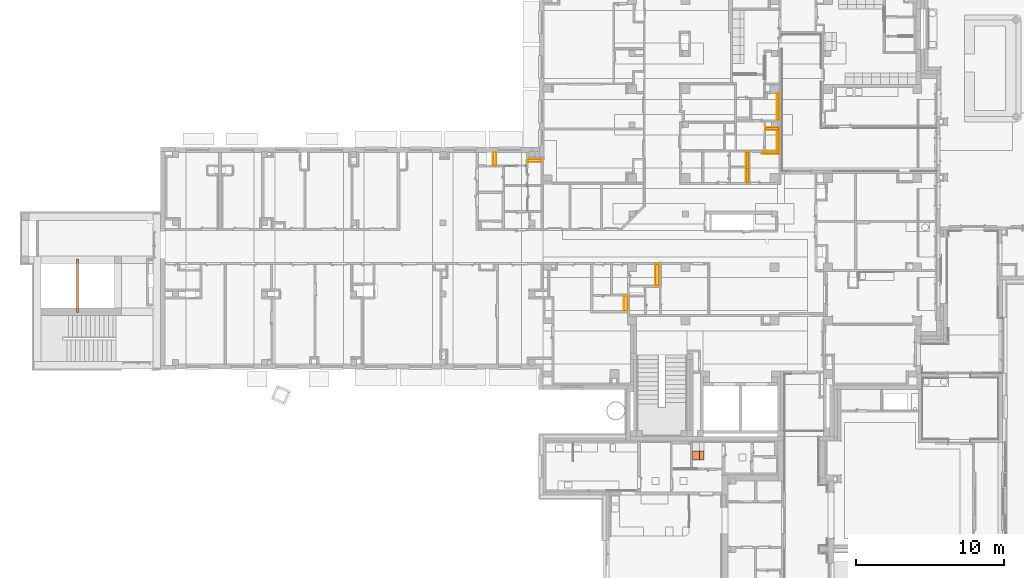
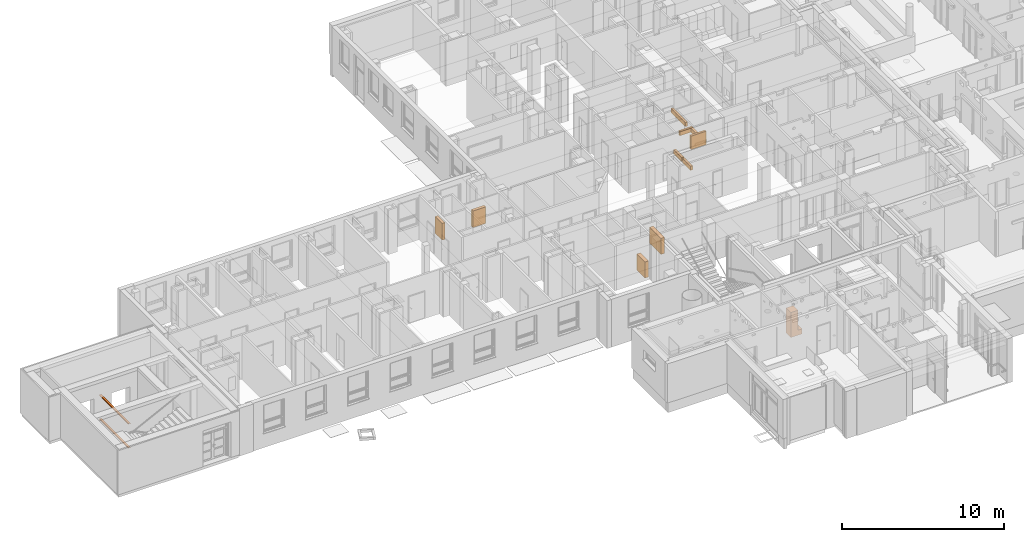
# One storey, part 137 of 140: 20 coverings, 13 proxies, 1 element without a shape of its own.
"""IFC4 building model written with IfcOpenShell, lengths in metres."""

from ifc_helpers import new_model, entity, si_unit, converted_unit, derived_unit, frame, frame_2d, origin, origin_with_axes, place, context, subcontext, project, spatial, rectangle, extrude, faceted_brep, source, transform, mapped, material, layer, layer_set, layer_usage, element, aggregate, save


model = new_model("IFC4")

# Units and contexts
model_context = context("Model", 3, precision=1e-05, world=origin())
body_context = subcontext(model_context, "Body", "Model", "MODEL_VIEW")
ifc_project = project(units=[si_unit("LENGTHUNIT", "METRE"), si_unit("AREAUNIT", "SQUARE_METRE"), si_unit("VOLUMEUNIT", "CUBIC_METRE"), si_unit("MASSUNIT", "GRAM", prefix="KILO"), converted_unit("PLANEANGLEUNIT", "DEGREE", entity("IfcPlaneAngleMeasure", 0.0174532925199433), si_unit("PLANEANGLEUNIT", "RADIAN"), dimensions=[0, 0, 0, 0, 0, 0, 0]), derived_unit("THERMALTRANSMITTANCEUNIT", [(si_unit("POWERUNIT", "WATT"), 1), (si_unit("THERMODYNAMICTEMPERATUREUNIT", "KELVIN"), -1), (si_unit("LENGTHUNIT", "METRE"), -2)]), derived_unit("VOLUMETRICFLOWRATEUNIT", [(si_unit("LENGTHUNIT", "METRE"), 3), (converted_unit("TIMEUNIT", "hour", entity("IfcTimeMeasure", 3600.0), si_unit("TIMEUNIT", "SECOND"), dimensions=[0, 0, 1, 0, 0, 0, 0]), -1), (si_unit("LENGTHUNIT", "METRE"), -1)])], contexts=[model_context])

# Site, building, storey
site_placement = place(None, origin())
site = spatial("IfcSite", under=ifc_project, at=site_placement, Name="3. ASŘ", CompositionType="ELEMENT")
building_placement = place(site_placement, origin())
building = spatial("IfcBuilding", under=site, at=building_placement, Name="Pavilon C", CompositionType="ELEMENT")
storey_placement = place(building_placement, origin())
storey = spatial("IfcBuildingStorey", under=building, at=storey_placement, Name="Půdorys 1.NP", CompositionType="ELEMENT", Elevation=0.0)

# Covering
ifc_material_1 = material(Name="KERAMICKÝ OBKLAD")
ifc_layer_1 = layer(ifc_material_1, 0.015)
ifc_layer_set_1 = layer_set([ifc_layer_1])
ifc_layer_usage_1 = layer_usage(ifc_layer_set_1, "AXIS3", "POSITIVE", 0.0)
proxy_3_placement = place(storey_placement, frame((21.4, 14.93, 0.0)))
covering_1_placement = place(proxy_3_placement, frame((0.0, -0.875000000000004, 0.0)))
covering_1 = element("IfcCovering", 1, at=covering_1_placement, inside=storey, material=ifc_layer_usage_1, PredefinedType="CLADDING", context=body_context, shape_type="SweptSolid", body=[
    extrude(rectangle(XDim=0.2, YDim=1.25, at=frame_2d((0.1, -0.625), x_axis=(1.0, 0.0))), frame((0.2, 0.0, 0.0), z_axis=(0.0, -1.0, 0.0), x_axis=(-1.0, 0.0, 0.0)), (0.0, 0.0, 1.0), 0.015),
    extrude(rectangle(XDim=0.875000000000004, YDim=1.25, at=frame_2d((0.437500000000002, -0.625), x_axis=(1.0, 0.0))), frame((0.2, 0.875000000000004, 0.0), z_axis=(1.0, 0.0, 0.0), x_axis=(0.0, -1.0, 0.0)), (0.0, 0.0, 1.0), 0.015),
    extrude(rectangle(XDim=0.2, YDim=1.25, at=frame_2d((0.1, -0.625), x_axis=(1.0, 0.0))), frame((0.0, 0.875000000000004, 0.0), z_axis=(0.0, 1.0, 0.0), x_axis=(1.0, 0.0, 0.0)), (0.0, 0.0, 1.0), 0.015),
    extrude(rectangle(XDim=0.875000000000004, YDim=1.25, at=frame_2d((0.437500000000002, -0.625), x_axis=(1.0, 0.0))), frame((0.0, 0.0, 0.0), z_axis=(-1.0, 0.0, 0.0), x_axis=(0.0, 1.0, 0.0)), (0.0, 0.0, 1.0), 0.015),
])

ifc_material_2 = material(Name="KERAMICKÝ OBKLAD")
ifc_layer_2 = layer(ifc_material_2, 0.015)
ifc_layer_set_2 = layer_set([ifc_layer_2])
ifc_layer_usage_2 = layer_usage(ifc_layer_set_2, "AXIS3", "POSITIVE", 0.0)
covering_2_placement = place(proxy_3_placement, frame((0.0, -0.875000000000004, 1.25)))
covering_2 = element("IfcCovering", 2, at=covering_2_placement, inside=storey, material=ifc_layer_usage_2, PredefinedType="FLOORING", context=body_context, shape_type="SweptSolid", body=[
    extrude(rectangle(XDim=0.2, YDim=0.875000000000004, at=frame_2d((0.1, 0.437500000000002), x_axis=(1.0, 0.0))), frame((0.0, 0.875000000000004, 0.0), z_axis=(0.0, 0.0, -1.0), x_axis=(1.0, 0.0, 0.0)), (0.0, 0.0, -1.0), 0.015),
])

ifc_material_3 = material(Name="KERAMICKÝ OBKLAD")
ifc_layer_3 = layer(ifc_material_3, 0.015)
ifc_layer_set_3 = layer_set([ifc_layer_3])
ifc_layer_usage_3 = layer_usage(ifc_layer_set_3, "AXIS3", "POSITIVE", 0.0)
proxy_4_placement = place(storey_placement, frame((24.625, 14.475, 0.0)))
covering_3_placement = place(proxy_4_placement, frame((-0.9, -0.2, 0.0)))
covering_3 = element("IfcCovering", 3, at=covering_3_placement, inside=storey, material=ifc_layer_usage_3, PredefinedType="CLADDING", context=body_context, shape_type="SweptSolid", body=[
    extrude(rectangle(XDim=0.2, YDim=1.25, at=frame_2d((0.1, -0.625), x_axis=(1.0, 0.0))), frame((0.0, 0.0, 0.0), z_axis=(-1.0, 0.0, 0.0), x_axis=(0.0, 1.0, 0.0)), (0.0, 0.0, 1.0), 0.015),
    extrude(rectangle(XDim=0.9, YDim=1.25, at=frame_2d((0.45, -0.625), x_axis=(1.0, 0.0))), frame((0.9, 0.0, 0.0), z_axis=(0.0, -1.0, 0.0), x_axis=(-1.0, 0.0, 0.0)), (0.0, 0.0, 1.0), 0.015),
    extrude(rectangle(XDim=0.2, YDim=1.25, at=frame_2d((0.1, -0.625), x_axis=(1.0, 0.0))), frame((0.9, 0.2, 0.0), z_axis=(1.0, 0.0, 0.0), x_axis=(0.0, -1.0, 0.0)), (0.0, 0.0, 1.0), 0.015),
    extrude(rectangle(XDim=0.9, YDim=1.25, at=frame_2d((0.45, -0.625), x_axis=(1.0, 0.0))), frame((0.0, 0.2, 0.0), z_axis=(0.0, 1.0, 0.0), x_axis=(1.0, 0.0, 0.0)), (0.0, 0.0, 1.0), 0.015),
])

ifc_material_4 = material(Name="KERAMICKÝ OBKLAD")
ifc_layer_4 = layer(ifc_material_4, 0.015)
ifc_layer_set_4 = layer_set([ifc_layer_4])
ifc_layer_usage_4 = layer_usage(ifc_layer_set_4, "AXIS3", "POSITIVE", 0.0)
covering_4_placement = place(proxy_4_placement, frame((-0.9, -0.2, 1.25)))
covering_4 = element("IfcCovering", 4, at=covering_4_placement, inside=storey, material=ifc_layer_usage_4, PredefinedType="FLOORING", context=body_context, shape_type="SweptSolid", body=[
    extrude(rectangle(XDim=0.2, YDim=0.9, at=frame_2d((-0.45, 0.1), x_axis=(0.0, 1.0))), frame((0.9, 0.2, 0.0), z_axis=(0.0, 0.0, -1.0), x_axis=(1.0, 0.0, 0.0)), (0.0, 0.0, -1.0), 0.015),
])

ifc_material_5 = material(Name="KERAMICKÝ OBKLAD")
ifc_layer_5 = layer(ifc_material_5, 0.015)
ifc_layer_set_5 = layer_set([ifc_layer_5])
ifc_layer_usage_5 = layer_usage(ifc_layer_set_5, "AXIS3", "POSITIVE", 0.0)
proxy_5_placement = place(storey_placement, frame((38.575, 12.9, 0.0)))
covering_5_placement = place(proxy_5_placement, frame((-0.15, 0.0, 0.0)))
covering_5 = element("IfcCovering", 5, at=covering_5_placement, inside=storey, material=ifc_layer_usage_5, PredefinedType="CLADDING", context=body_context, shape_type="SweptSolid", body=[
    extrude(rectangle(XDim=0.15, YDim=0.3, at=frame_2d((0.075, -0.15), x_axis=(1.0, 0.0))), frame((0.0, 0.9875, 0.0), z_axis=(0.0, 1.0, 0.0), x_axis=(1.0, 0.0, 0.0)), (0.0, 0.0, 1.0), 0.015),
    extrude(rectangle(XDim=0.9875, YDim=0.3, at=frame_2d((0.49375, -0.15), x_axis=(1.0, 0.0))), frame((0.0, 0.0, 0.0), z_axis=(-1.0, 0.0, 0.0), x_axis=(0.0, 1.0, 0.0)), (0.0, 0.0, 1.0), 0.015),
    extrude(rectangle(XDim=0.15, YDim=0.3, at=frame_2d((0.075, -0.15), x_axis=(1.0, 0.0))), frame((0.15, 0.0, 0.0), z_axis=(0.0, -1.0, 0.0), x_axis=(-1.0, 0.0, 0.0)), (0.0, 0.0, 1.0), 0.015),
    extrude(rectangle(XDim=0.9875, YDim=0.3, at=frame_2d((0.49375, -0.15), x_axis=(1.0, 0.0))), frame((0.15, 0.9875, 0.0), z_axis=(1.0, 0.0, 0.0), x_axis=(0.0, -1.0, 0.0)), (0.0, 0.0, 1.0), 0.015),
])

ifc_material_6 = material(Name="KERAMICKÝ OBKLAD")
ifc_layer_6 = layer(ifc_material_6, 0.015)
ifc_layer_set_6 = layer_set([ifc_layer_6])
ifc_layer_usage_6 = layer_usage(ifc_layer_set_6, "AXIS3", "POSITIVE", 0.0)
covering_6_placement = place(proxy_5_placement, frame((-0.15, 0.0, 0.3)))
covering_6 = element("IfcCovering", 6, at=covering_6_placement, inside=storey, material=ifc_layer_usage_6, PredefinedType="FLOORING", context=body_context, shape_type="SweptSolid", body=[
    extrude(rectangle(XDim=0.15, YDim=0.9875, at=frame_2d((-0.075, -0.49375), x_axis=(-1.0, 0.0))), frame((0.15, 0.0, 0.0), z_axis=(0.0, 0.0, -1.0), x_axis=(1.0, 0.0, 0.0)), (0.0, 0.0, -1.0), 0.015),
])

ifc_material_7 = material(Name="KERAMICKÝ OBKLAD")
ifc_layer_7 = layer(ifc_material_7, 0.015)
ifc_layer_set_7 = layer_set([ifc_layer_7])
ifc_layer_usage_7 = layer_usage(ifc_layer_set_7, "AXIS3", "POSITIVE", 0.0)
proxy_6_placement = place(storey_placement, frame((38.575, 13.9875, 0.0)))
covering_7_placement = place(proxy_6_placement, frame((-0.15, 0.0, 0.0)))
covering_7 = element("IfcCovering", 7, at=covering_7_placement, inside=storey, material=ifc_layer_usage_7, PredefinedType="CLADDING", context=body_context, shape_type="SweptSolid", body=[
    extrude(rectangle(XDim=0.15, YDim=0.3, at=frame_2d((0.075, -0.15), x_axis=(1.0, 0.0))), frame((0.0, 0.9875, 0.0), z_axis=(0.0, 1.0, 0.0), x_axis=(1.0, 0.0, 0.0)), (0.0, 0.0, 1.0), 0.015),
    extrude(rectangle(XDim=0.9875, YDim=0.3, at=frame_2d((0.49375, -0.15), x_axis=(1.0, 0.0))), frame((0.0, 0.0, 0.0), z_axis=(-1.0, 0.0, 0.0), x_axis=(0.0, 1.0, 0.0)), (0.0, 0.0, 1.0), 0.015),
    extrude(rectangle(XDim=0.15, YDim=0.3, at=frame_2d((0.075, -0.15), x_axis=(1.0, 0.0))), frame((0.15, 0.0, 0.0), z_axis=(0.0, -1.0, 0.0), x_axis=(-1.0, 0.0, 0.0)), (0.0, 0.0, 1.0), 0.015),
    extrude(rectangle(XDim=0.9875, YDim=0.3, at=frame_2d((0.49375, -0.15), x_axis=(1.0, 0.0))), frame((0.15, 0.9875, 0.0), z_axis=(1.0, 0.0, 0.0), x_axis=(0.0, -1.0, 0.0)), (0.0, 0.0, 1.0), 0.015),
])

ifc_material_8 = material(Name="KERAMICKÝ OBKLAD")
ifc_layer_8 = layer(ifc_material_8, 0.015)
ifc_layer_set_8 = layer_set([ifc_layer_8])
ifc_layer_usage_8 = layer_usage(ifc_layer_set_8, "AXIS3", "POSITIVE", 0.0)
covering_8_placement = place(proxy_6_placement, frame((-0.15, 0.0, 0.3)))
covering_8 = element("IfcCovering", 8, at=covering_8_placement, inside=storey, material=ifc_layer_usage_8, PredefinedType="FLOORING", context=body_context, shape_type="SweptSolid", body=[
    extrude(rectangle(XDim=0.15, YDim=0.9875, at=frame_2d((-0.075, -0.49375), x_axis=(-1.0, 0.0))), frame((0.15, 0.0, 0.0), z_axis=(0.0, 0.0, -1.0), x_axis=(1.0, 0.0, 0.0)), (0.0, 0.0, -1.0), 0.015),
])

ifc_material_9 = material(Name="KERAMICKÝ OBKLAD")
ifc_layer_9 = layer(ifc_material_9, 0.015)
ifc_layer_set_9 = layer_set([ifc_layer_9])
ifc_layer_usage_9 = layer_usage(ifc_layer_set_9, "AXIS3", "POSITIVE", 0.0)
proxy_7_placement = place(storey_placement, frame((32.575, 5.975, 0.0)))
covering_9_placement = place(proxy_7_placement, frame((-0.25, 0.0, 0.0)))
covering_9 = element("IfcCovering", 9, at=covering_9_placement, inside=storey, material=ifc_layer_usage_9, PredefinedType="CLADDING", context=body_context, shape_type="SweptSolid", body=[
    extrude(rectangle(XDim=0.25, YDim=1.2, at=frame_2d((0.125, -0.6), x_axis=(1.0, 0.0))), frame((0.0, 1.4, 0.0), z_axis=(0.0, 1.0, 0.0), x_axis=(1.0, 0.0, 0.0)), (0.0, 0.0, 1.0), 0.015),
    extrude(rectangle(XDim=1.4, YDim=1.2, at=frame_2d((0.7, -0.6), x_axis=(1.0, 0.0))), frame((0.0, 0.0, 0.0), z_axis=(-1.0, 0.0, 0.0), x_axis=(0.0, 1.0, 0.0)), (0.0, 0.0, 1.0), 0.015),
    extrude(rectangle(XDim=0.25, YDim=1.2, at=frame_2d((0.125, -0.6), x_axis=(1.0, 0.0))), frame((0.25, 0.0, 0.0), z_axis=(0.0, -1.0, 0.0), x_axis=(-1.0, 0.0, 0.0)), (0.0, 0.0, 1.0), 0.015),
    extrude(rectangle(XDim=1.4, YDim=1.2, at=frame_2d((0.7, -0.6), x_axis=(1.0, 0.0))), frame((0.25, 1.4, 0.0), z_axis=(1.0, 0.0, 0.0), x_axis=(0.0, -1.0, 0.0)), (0.0, 0.0, 1.0), 0.015),
])

ifc_material_10 = material(Name="KERAMICKÝ OBKLAD")
ifc_layer_10 = layer(ifc_material_10, 0.015)
ifc_layer_set_10 = layer_set([ifc_layer_10])
ifc_layer_usage_10 = layer_usage(ifc_layer_set_10, "AXIS3", "POSITIVE", 0.0)
covering_10_placement = place(proxy_7_placement, frame((-0.25, 0.0, 1.2)))
covering_10 = element("IfcCovering", 10, at=covering_10_placement, inside=storey, material=ifc_layer_usage_10, PredefinedType="FLOORING", context=body_context, shape_type="SweptSolid", body=[
    extrude(rectangle(XDim=0.25, YDim=1.4, at=frame_2d((-0.125, -0.7), x_axis=(-1.0, 0.0))), frame((0.25, 0.0, 0.0), z_axis=(0.0, 0.0, -1.0), x_axis=(1.0, 0.0, 0.0)), (0.0, 0.0, -1.0), 0.015),
])

ifc_material_11 = material(Name="KERAMICKÝ OBKLAD")
ifc_layer_11 = layer(ifc_material_11, 0.015)
ifc_layer_set_11 = layer_set([ifc_layer_11])
ifc_layer_usage_11 = layer_usage(ifc_layer_set_11, "AXIS3", "POSITIVE", 0.0)
proxy_8_placement = place(storey_placement, frame((30.45, 4.275, 0.0)))
covering_11_placement = place(proxy_8_placement, frame((-0.25, 0.0, 0.0)))
covering_11 = element("IfcCovering", 11, at=covering_11_placement, inside=storey, material=ifc_layer_usage_11, PredefinedType="CLADDING", context=body_context, shape_type="SweptSolid", body=[
    extrude(rectangle(XDim=0.25, YDim=1.2, at=frame_2d((0.125, -0.6), x_axis=(1.0, 0.0))), frame((0.0, 1.0, 0.0), z_axis=(0.0, 1.0, 0.0), x_axis=(1.0, 0.0, 0.0)), (0.0, 0.0, 1.0), 0.015),
    extrude(rectangle(XDim=1.0, YDim=1.2, at=frame_2d((0.5, -0.6), x_axis=(1.0, 0.0))), frame((0.0, 0.0, 0.0), z_axis=(-1.0, 0.0, 0.0), x_axis=(0.0, 1.0, 0.0)), (0.0, 0.0, 1.0), 0.015),
    extrude(rectangle(XDim=0.25, YDim=1.2, at=frame_2d((0.125, -0.6), x_axis=(1.0, 0.0))), frame((0.25, 0.0, 0.0), z_axis=(0.0, -1.0, 0.0), x_axis=(-1.0, 0.0, 0.0)), (0.0, 0.0, 1.0), 0.015),
    extrude(rectangle(XDim=1.0, YDim=1.2, at=frame_2d((0.5, -0.6), x_axis=(1.0, 0.0))), frame((0.25, 1.0, 0.0), z_axis=(1.0, 0.0, 0.0), x_axis=(0.0, -1.0, 0.0)), (0.0, 0.0, 1.0), 0.015),
])

ifc_material_12 = material(Name="KERAMICKÝ OBKLAD")
ifc_layer_12 = layer(ifc_material_12, 0.015)
ifc_layer_set_12 = layer_set([ifc_layer_12])
ifc_layer_usage_12 = layer_usage(ifc_layer_set_12, "AXIS3", "POSITIVE", 0.0)
covering_12_placement = place(proxy_8_placement, frame((-0.25, 0.0, 1.2)))
covering_12 = element("IfcCovering", 12, at=covering_12_placement, inside=storey, material=ifc_layer_usage_12, PredefinedType="FLOORING", context=body_context, shape_type="SweptSolid", body=[
    extrude(rectangle(XDim=0.25, YDim=1.0, at=frame_2d((-0.125, -0.5), x_axis=(-1.0, 0.0))), frame((0.25, 0.0, 0.0), z_axis=(0.0, 0.0, -1.0), x_axis=(1.0, 0.0, 0.0)), (0.0, 0.0, -1.0), 0.015),
])

ifc_material_13 = material(Name="KERAMICKÝ OBKLAD")
ifc_layer_13 = layer(ifc_material_13, 0.015)
ifc_layer_set_13 = layer_set([ifc_layer_13])
ifc_layer_usage_13 = layer_usage(ifc_layer_set_13, "AXIS3", "POSITIVE", 0.0)
proxy_9_placement = place(storey_placement, frame((40.65, 14.975, 5.6843418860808e-17)))
covering_13_placement = place(proxy_9_placement, frame((-1.075, -0.15, -5.6843418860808e-17)))
covering_13 = element("IfcCovering", 13, at=covering_13_placement, inside=storey, material=ifc_layer_usage_13, PredefinedType="CLADDING", context=body_context, shape_type="SweptSolid", body=[
    extrude(rectangle(XDim=0.15, YDim=1.0, at=frame_2d((0.075, -0.5), x_axis=(1.0, 0.0))), frame((0.0, 0.0, 0.0), z_axis=(-1.0, 0.0, 0.0), x_axis=(0.0, 1.0, 0.0)), (0.0, 0.0, 1.0), 0.015),
    extrude(rectangle(XDim=1.075, YDim=1.0, at=frame_2d((0.5375, -0.5), x_axis=(1.0, 0.0))), frame((1.075, 0.0, 0.0), z_axis=(0.0, -1.0, 0.0), x_axis=(-1.0, 0.0, 0.0)), (0.0, 0.0, 1.0), 0.015),
    extrude(rectangle(XDim=0.15, YDim=1.0, at=frame_2d((0.075, -0.5), x_axis=(1.0, 0.0))), frame((1.075, 0.15, 0.0), z_axis=(1.0, 0.0, 0.0), x_axis=(0.0, -1.0, 0.0)), (0.0, 0.0, 1.0), 0.015),
    extrude(rectangle(XDim=1.075, YDim=1.0, at=frame_2d((0.5375, -0.5), x_axis=(1.0, 0.0))), frame((0.0, 0.15, 0.0), z_axis=(0.0, 1.0, 0.0), x_axis=(1.0, 0.0, 0.0)), (0.0, 0.0, 1.0), 0.015),
])

ifc_material_14 = material(Name="KERAMICKÝ OBKLAD")
ifc_layer_14 = layer(ifc_material_14, 0.015)
ifc_layer_set_14 = layer_set([ifc_layer_14])
ifc_layer_usage_14 = layer_usage(ifc_layer_set_14, "AXIS3", "POSITIVE", 0.0)
covering_14_placement = place(proxy_9_placement, frame((-1.075, -0.15, 1.0)))
covering_14 = element("IfcCovering", 14, at=covering_14_placement, inside=storey, material=ifc_layer_usage_14, PredefinedType="FLOORING", context=body_context, shape_type="SweptSolid", body=[
    extrude(rectangle(XDim=0.15, YDim=1.075, at=frame_2d((-0.5375, 0.075), x_axis=(0.0, 1.0))), frame((1.075, 0.15, 0.0), z_axis=(0.0, 0.0, -1.0), x_axis=(1.0, 0.0, 0.0)), (0.0, 0.0, -1.0), 0.015),
])

ifc_material_15 = material(Name="KERAMICKÝ OBKLAD")
ifc_layer_15 = layer(ifc_material_15, 0.015)
ifc_layer_set_15 = layer_set([ifc_layer_15])
ifc_layer_usage_15 = layer_usage(ifc_layer_set_15, "AXIS3", "POSITIVE", 0.0)
proxy_10_placement = place(storey_placement, frame((40.65, 17.125, 0.0)))
covering_15_placement = place(proxy_10_placement, frame((-0.15, 0.0, 0.0)))
covering_15 = element("IfcCovering", 15, at=covering_15_placement, inside=storey, material=ifc_layer_usage_15, PredefinedType="CLADDING", context=body_context, shape_type="SweptSolid", body=[
    extrude(rectangle(XDim=0.15, YDim=0.3, at=frame_2d((0.075, -0.15), x_axis=(1.0, 0.0))), frame((0.0, 1.775, 0.0), z_axis=(0.0, 1.0, 0.0), x_axis=(1.0, 0.0, 0.0)), (0.0, 0.0, 1.0), 0.015),
    extrude(rectangle(XDim=1.775, YDim=0.3, at=frame_2d((0.8875, -0.15), x_axis=(1.0, 0.0))), frame((0.0, 0.0, 0.0), z_axis=(-1.0, 0.0, 0.0), x_axis=(0.0, 1.0, 0.0)), (0.0, 0.0, 1.0), 0.015),
    extrude(rectangle(XDim=0.15, YDim=0.3, at=frame_2d((0.075, -0.15), x_axis=(1.0, 0.0))), frame((0.15, 0.0, 0.0), z_axis=(0.0, -1.0, 0.0), x_axis=(-1.0, 0.0, 0.0)), (0.0, 0.0, 1.0), 0.015),
    extrude(rectangle(XDim=1.775, YDim=0.3, at=frame_2d((0.8875, -0.15), x_axis=(1.0, 0.0))), frame((0.15, 1.775, 0.0), z_axis=(1.0, 0.0, 0.0), x_axis=(0.0, -1.0, 0.0)), (0.0, 0.0, 1.0), 0.015),
])

ifc_material_16 = material(Name="KERAMICKÝ OBKLAD")
ifc_layer_16 = layer(ifc_material_16, 0.015)
ifc_layer_set_16 = layer_set([ifc_layer_16])
ifc_layer_usage_16 = layer_usage(ifc_layer_set_16, "AXIS3", "POSITIVE", 0.0)
covering_16_placement = place(proxy_10_placement, frame((-0.15, 0.0, 0.3)))
covering_16 = element("IfcCovering", 16, at=covering_16_placement, inside=storey, material=ifc_layer_usage_16, PredefinedType="FLOORING", context=body_context, shape_type="SweptSolid", body=[
    extrude(rectangle(XDim=0.15, YDim=1.775, at=frame_2d((-0.075, -0.8875), x_axis=(-1.0, 0.0))), frame((0.15, 0.0, 0.0), z_axis=(0.0, 0.0, -1.0), x_axis=(1.0, 0.0, 0.0)), (0.0, 0.0, -1.0), 0.015),
])

ifc_material_17 = material(Name="KERAMICKÝ OBKLAD")
ifc_layer_17 = layer(ifc_material_17, 0.015)
ifc_layer_set_17 = layer_set([ifc_layer_17])
ifc_layer_usage_17 = layer_usage(ifc_layer_set_17, "AXIS3", "POSITIVE", 0.0)
proxy_11_placement = place(storey_placement, frame((40.65, 15.075, 0.0)))
covering_17_placement = place(proxy_11_placement, frame((-0.15, 0.0, 0.0)))
covering_17 = element("IfcCovering", 17, at=covering_17_placement, inside=storey, material=ifc_layer_usage_17, PredefinedType="CLADDING", context=body_context, shape_type="SweptSolid", body=[
    extrude(rectangle(XDim=1.375, YDim=0.3, at=frame_2d((0.6875, -0.15), x_axis=(1.0, 0.0))), frame((0.0, 0.0, 0.0), z_axis=(-1.0, 0.0, 0.0), x_axis=(0.0, 1.0, 0.0)), (0.0, 0.0, 1.0), 0.015),
    extrude(rectangle(XDim=0.15, YDim=0.3, at=frame_2d((0.075, -0.15), x_axis=(1.0, 0.0))), frame((0.15, 0.0, 0.0), z_axis=(0.0, -1.0, 0.0), x_axis=(-1.0, 0.0, 0.0)), (0.0, 0.0, 1.0), 0.015),
    extrude(rectangle(XDim=1.375, YDim=0.3, at=frame_2d((0.6875, -0.15), x_axis=(1.0, 0.0))), frame((0.15, 1.375, 0.0), z_axis=(1.0, 0.0, 0.0), x_axis=(0.0, -1.0, 0.0)), (0.0, 0.0, 1.0), 0.015),
])

ifc_material_18 = material(Name="KERAMICKÝ OBKLAD")
ifc_layer_18 = layer(ifc_material_18, 0.015)
ifc_layer_set_18 = layer_set([ifc_layer_18])
ifc_layer_usage_18 = layer_usage(ifc_layer_set_18, "AXIS3", "POSITIVE", 0.0)
covering_18_placement = place(proxy_11_placement, frame((-0.15, 0.0, 0.3)))
covering_18 = element("IfcCovering", 18, at=covering_18_placement, inside=storey, material=ifc_layer_usage_18, PredefinedType="FLOORING", context=body_context, shape_type="SweptSolid", body=[
    extrude(rectangle(XDim=0.15, YDim=1.375, at=frame_2d((-0.075, -0.6875), x_axis=(-1.0, 0.0))), frame((0.15, 0.0, 0.0), z_axis=(0.0, 0.0, -1.0), x_axis=(1.0, 0.0, 0.0)), (0.0, 0.0, -1.0), 0.015),
])

ifc_material_19 = material(Name="KERAMICKÝ OBKLAD")
ifc_layer_19 = layer(ifc_material_19, 0.015)
ifc_layer_set_19 = layer_set([ifc_layer_19])
ifc_layer_usage_19 = layer_usage(ifc_layer_set_19, "AXIS3", "POSITIVE", 0.0)
proxy_12_placement = place(storey_placement, frame((40.65, 16.6, 0.0)))
covering_19_placement = place(proxy_12_placement, frame((-0.925, -0.15, 0.0)))
covering_19 = element("IfcCovering", 19, at=covering_19_placement, inside=storey, material=ifc_layer_usage_19, PredefinedType="CLADDING", context=body_context, shape_type="SweptSolid", body=[
    extrude(rectangle(XDim=0.15, YDim=0.3, at=frame_2d((0.075, -0.15), x_axis=(1.0, 0.0))), frame((0.0, 0.0, 0.0), z_axis=(-1.0, 0.0, 0.0), x_axis=(0.0, 1.0, 0.0)), (0.0, 0.0, 1.0), 0.015),
    extrude(rectangle(XDim=0.775, YDim=0.3, at=frame_2d((0.3875, -0.15), x_axis=(1.0, 0.0))), frame((0.775, 0.0, 0.0), z_axis=(0.0, -1.0, 0.0), x_axis=(-1.0, 0.0, 0.0)), (0.0, 0.0, 1.0), 0.015),
    extrude(rectangle(XDim=0.15, YDim=0.3, at=frame_2d((0.075, -0.15), x_axis=(1.0, 0.0))), frame((0.925, 0.15, 0.0), z_axis=(1.0, 0.0, 0.0), x_axis=(0.0, -1.0, 0.0)), (0.0, 0.0, 1.0), 0.015),
    extrude(rectangle(XDim=0.925, YDim=0.3, at=frame_2d((0.4625, -0.15), x_axis=(1.0, 0.0))), frame((0.0, 0.15, 0.0), z_axis=(0.0, 1.0, 0.0), x_axis=(1.0, 0.0, 0.0)), (0.0, 0.0, 1.0), 0.015),
])

ifc_material_20 = material(Name="KERAMICKÝ OBKLAD")
ifc_layer_20 = layer(ifc_material_20, 0.015)
ifc_layer_set_20 = layer_set([ifc_layer_20])
ifc_layer_usage_20 = layer_usage(ifc_layer_set_20, "AXIS3", "POSITIVE", 0.0)
covering_20_placement = place(proxy_12_placement, frame((-0.925, -0.15, 0.3)))
covering_20 = element("IfcCovering", 20, at=covering_20_placement, inside=storey, material=ifc_layer_usage_20, PredefinedType="FLOORING", context=body_context, shape_type="SweptSolid", body=[
    extrude(rectangle(XDim=0.15, YDim=0.925, at=frame_2d((-0.4625, 0.075), x_axis=(0.0, 1.0))), frame((0.925, 0.15, 0.0), z_axis=(0.0, 0.0, -1.0), x_axis=(1.0, 0.0, 0.0)), (0.0, 0.0, -1.0), 0.015),
])

# Proxies
ifc_material_21 = material(Name="U 140")
shared_shape = source(origin_with_axes(), body_context, "Body", "Brep", [
    faceted_brep([(7.105427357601e-18, 0.0, 0.0), (0.06, 0.0, 0.0), (0.06, 0.14, 0.0), (7.105427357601e-18, 0.14, 0.0), (0.0, 0.137015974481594, 0.0), (0.000220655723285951, 0.135547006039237, 0.0), (0.000863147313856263, 0.134207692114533, 0.0), (0.00187076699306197, 0.133116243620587, 0.0), (0.00315457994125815, 0.132368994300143, 0.0), (0.00460127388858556, 0.132031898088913, 0.0), (0.0437974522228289, 0.128896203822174, 0.0), (0.0466908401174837, 0.128222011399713, 0.0), (0.0492584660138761, 0.126727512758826, 0.0), (0.0512737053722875, 0.124544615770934, 0.0), (0.0525586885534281, 0.121865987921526, 0.0), (0.053, 0.118928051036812, 0.0), (0.053, 0.0210719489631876, 0.0), (0.0525586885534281, 0.0181340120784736, 0.0), (0.0512737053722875, 0.0154553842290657, 0.0), (0.0492584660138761, 0.0132724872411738, 0.0), (0.0466908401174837, 0.0117779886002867, 0.0), (0.0437974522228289, 0.0111037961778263, 0.0), (0.00460127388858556, 0.00796810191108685, 0.0), (0.00315457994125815, 0.00763100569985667, 0.0), (0.00187076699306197, 0.00688375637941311, 0.0), (0.000863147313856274, 0.00579230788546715, 0.0), (0.000220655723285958, 0.00445299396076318, 0.0), (7.105427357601e-18, 0.00298402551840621, 0.0), (0.06, 0.0, 3.6), (7.105427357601e-18, 0.0, 3.6), (7.105427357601e-18, 0.00298402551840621, 3.6), (0.000220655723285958, 0.00445299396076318, 3.6), (0.000863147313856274, 0.00579230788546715, 3.6), (0.00187076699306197, 0.00688375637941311, 3.6), (0.00315457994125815, 0.00763100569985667, 3.6), (0.00460127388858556, 0.00796810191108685, 3.6), (0.0437974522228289, 0.0111037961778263, 3.6), (0.0466908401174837, 0.0117779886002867, 3.6), (0.0492584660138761, 0.0132724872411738, 3.6), (0.0512737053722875, 0.0154553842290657, 3.6), (0.0525586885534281, 0.0181340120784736, 3.6), (0.053, 0.0210719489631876, 3.6), (0.053, 0.118928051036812, 3.6), (0.0525586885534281, 0.121865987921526, 3.6), (0.0512737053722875, 0.124544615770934, 3.6), (0.0492584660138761, 0.126727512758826, 3.6), (0.0466908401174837, 0.128222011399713, 3.6), (0.0437974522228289, 0.128896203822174, 3.6), (0.00460127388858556, 0.132031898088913, 3.6), (0.00315457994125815, 0.132368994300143, 3.6), (0.00187076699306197, 0.133116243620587, 3.6), (0.000863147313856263, 0.134207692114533, 3.6), (0.000220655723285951, 0.135547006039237, 3.6), (0.0, 0.137015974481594, 3.6), (7.105427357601e-18, 0.14, 3.6), (0.06, 0.14, 3.6)], [[[0, 1, 2, 3, 4, 5, 6, 7, 8, 9, 10, 11, 12, 13, 14, 15, 16, 17, 18, 19, 20, 21, 22, 23, 24, 25, 26, 27]], [[28, 29, 30, 31, 32, 33, 34, 35, 36, 37, 38, 39, 40, 41, 42, 43, 44, 45, 46, 47, 48, 49, 50, 51, 52, 53, 54, 55]], [[1, 0, 29, 28]], [[2, 1, 28, 55]], [[3, 2, 55, 54]], [[4, 3, 54, 53]], [[5, 4, 53, 52]], [[6, 5, 52, 51]], [[7, 6, 51, 50]], [[8, 7, 50, 49]], [[9, 8, 49, 48]], [[10, 9, 48, 47]], [[11, 10, 47, 46]], [[12, 11, 46, 45]], [[13, 12, 45, 44]], [[14, 13, 44, 43]], [[15, 14, 43, 42]], [[16, 15, 42, 41]], [[17, 16, 41, 40]], [[18, 17, 40, 39]], [[19, 18, 39, 38]], [[20, 19, 38, 37]], [[21, 20, 37, 36]], [[22, 21, 36, 35]], [[23, 22, 35, 34]], [[24, 23, 34, 33]], [[25, 24, 33, 32]], [[26, 25, 32, 31]], [[27, 26, 31, 30]], [[0, 27, 30, 29]]], orient=[[False], [False], [False], [False], [False], [False], [False], [False], [False], [False], [False], [False], [False], [False], [False], [False], [False], [False], [False], [False], [False], [False], [False], [False], [False], [False], [False], [False], [False], [False]]),
])
proxy_1_placement = place(storey_placement, frame((-6.52999999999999, 7.75, 0.14), z_axis=(-1.22464679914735e-16, -1.0, -2.44929359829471e-16), x_axis=(-5.34329236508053e-33, -2.44929359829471e-16, 1.0)))
element("IfcBuildingElementProxy", 21, at=proxy_1_placement, inside=storey, material=ifc_material_21, Name="Ocelový profil", context=body_context, shape_type="MappedRepresentation", body=[
    mapped(shared_shape, transform((0.0, 0.0, 0.0), x_axis=(1.0, 0.0, 0.0), y_axis=(0.0, 1.0, 0.0), z_axis=(0.0, 0.0, 1.0), scale=1.0)),
])
ifc_material_22 = material(Name="U 140")
proxy_2_placement = place(storey_placement, frame((-6.52999999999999, 7.75, 1.94), z_axis=(-1.22464679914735e-16, -1.0, -2.44929359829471e-16), x_axis=(-5.34329236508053e-33, -2.44929359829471e-16, 1.0)))
element("IfcBuildingElementProxy", 22, at=proxy_2_placement, inside=storey, material=ifc_material_22, Name="Ocelový profil", context=body_context, shape_type="MappedRepresentation", body=[
    mapped(shared_shape, transform((0.0, 0.0, 0.0), x_axis=(1.0, 0.0, 0.0), y_axis=(0.0, 1.0, 0.0), z_axis=(0.0, 0.0, 1.0), scale=1.0)),
])

# Proxy
ifc_material_23 = material(Name="YTONG INSTALAČNÍ PŘEDSTĚNA")
proxy_3 = element("IfcBuildingElementProxy", 23, at=proxy_3_placement, inside=storey, material=ifc_material_23, Name="YTONG INSTALAČNÍ PŘEDSTĚNA", context=body_context, shape_type="SweptSolid", body=[
    extrude(rectangle(XDim=0.875000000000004, YDim=0.2, at=frame_2d((0.1, -0.437500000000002), x_axis=(0.0, -1.0))), origin_with_axes(), (0.0, 0.0, 1.0), 1.25),
])

aggregate(proxy_3, [covering_1, covering_2])

ifc_material_24 = material(Name="YTONG INSTALAČNÍ PŘEDSTĚNA")
proxy_4 = element("IfcBuildingElementProxy", 24, at=proxy_4_placement, inside=storey, material=ifc_material_24, Name="YTONG INSTALAČNÍ PŘEDSTĚNA", context=body_context, shape_type="SweptSolid", body=[
    extrude(rectangle(XDim=0.9, YDim=0.2, at=frame_2d((-0.45, -0.1), x_axis=(-1.0, 0.0))), origin_with_axes(), (0.0, 0.0, 1.0), 1.25),
])

aggregate(proxy_4, [covering_3, covering_4])

ifc_material_25 = material(Name="YTONG INSTALAČNÍ PŘEDSTĚNA")
proxy_5 = element("IfcBuildingElementProxy", 25, at=proxy_5_placement, inside=storey, material=ifc_material_25, Name="YTONG INSTALAČNÍ PŘEDSTĚNA", context=body_context, shape_type="SweptSolid", body=[
    extrude(rectangle(XDim=0.9875, YDim=0.15, at=frame_2d((-0.075, 0.49375), x_axis=(0.0, 1.0))), origin_with_axes(), (0.0, 0.0, 1.0), 0.3),
])

aggregate(proxy_5, [covering_5, covering_6])

ifc_material_26 = material(Name="YTONG INSTALAČNÍ PŘEDSTĚNA")
proxy_6 = element("IfcBuildingElementProxy", 26, at=proxy_6_placement, inside=storey, material=ifc_material_26, Name="YTONG INSTALAČNÍ PŘEDSTĚNA", context=body_context, shape_type="SweptSolid", body=[
    extrude(rectangle(XDim=0.9875, YDim=0.15, at=frame_2d((-0.075, 0.49375), x_axis=(0.0, 1.0))), origin_with_axes(), (0.0, 0.0, 1.0), 0.3),
])

aggregate(proxy_6, [covering_7, covering_8])

ifc_material_27 = material(Name="YTONG INSTALAČNÍ PŘEDSTĚNA")
proxy_7 = element("IfcBuildingElementProxy", 27, at=proxy_7_placement, inside=storey, material=ifc_material_27, Name="YTONG INSTALAČNÍ PŘEDSTĚNA", context=body_context, shape_type="SweptSolid", body=[
    extrude(rectangle(XDim=1.4, YDim=0.25, at=frame_2d((-0.125, 0.7), x_axis=(0.0, 1.0))), origin_with_axes(), (0.0, 0.0, 1.0), 1.2),
])

aggregate(proxy_7, [covering_9, covering_10])

ifc_material_28 = material(Name="YTONG INSTALAČNÍ PŘEDSTĚNA")
proxy_8 = element("IfcBuildingElementProxy", 28, at=proxy_8_placement, inside=storey, material=ifc_material_28, Name="YTONG INSTALAČNÍ PŘEDSTĚNA", context=body_context, shape_type="SweptSolid", body=[
    extrude(rectangle(XDim=1.0, YDim=0.25, at=frame_2d((-0.125, 0.5), x_axis=(0.0, 1.0))), origin_with_axes(), (0.0, 0.0, 1.0), 1.2),
])

aggregate(proxy_8, [covering_11, covering_12])

ifc_material_29 = material(Name="YTONG INSTALAČNÍ PŘEDSTĚNA")
proxy_9 = element("IfcBuildingElementProxy", 29, at=proxy_9_placement, inside=storey, material=ifc_material_29, Name="YTONG INSTALAČNÍ PŘEDSTĚNA", context=body_context, shape_type="SweptSolid", body=[
    extrude(rectangle(XDim=1.075, YDim=0.15, at=frame_2d((-0.5375, -0.075), x_axis=(-1.0, 0.0))), origin_with_axes(), (0.0, 0.0, 1.0), 1.0),
])

aggregate(proxy_9, [covering_13, covering_14])

ifc_material_30 = material(Name="YTONG INSTALAČNÍ PŘEDSTĚNA")
proxy_10 = element("IfcBuildingElementProxy", 30, at=proxy_10_placement, inside=storey, material=ifc_material_30, Name="YTONG INSTALAČNÍ PŘEDSTĚNA", context=body_context, shape_type="SweptSolid", body=[
    extrude(rectangle(XDim=1.775, YDim=0.15, at=frame_2d((-0.075, 0.8875), x_axis=(0.0, 1.0))), origin_with_axes(), (0.0, 0.0, 1.0), 0.3),
])

aggregate(proxy_10, [covering_15, covering_16])

ifc_material_31 = material(Name="YTONG INSTALAČNÍ PŘEDSTĚNA")
proxy_11 = element("IfcBuildingElementProxy", 31, at=proxy_11_placement, inside=storey, material=ifc_material_31, Name="YTONG INSTALAČNÍ PŘEDSTĚNA", context=body_context, shape_type="SweptSolid", body=[
    extrude(rectangle(XDim=1.375, YDim=0.15, at=frame_2d((-0.075, 0.6875), x_axis=(0.0, 1.0))), origin_with_axes(), (0.0, 0.0, 1.0), 0.3),
])

aggregate(proxy_11, [covering_17, covering_18])

ifc_material_32 = material(Name="YTONG INSTALAČNÍ PŘEDSTĚNA")
proxy_12 = element("IfcBuildingElementProxy", 32, at=proxy_12_placement, inside=storey, material=ifc_material_32, Name="YTONG INSTALAČNÍ PŘEDSTĚNA", context=body_context, shape_type="SweptSolid", body=[
    extrude(rectangle(XDim=0.925, YDim=0.15, at=frame_2d((-0.4625, -0.075), x_axis=(-1.0, 0.0))), origin_with_axes(), (0.0, 0.0, 1.0), 0.3),
])

aggregate(proxy_12, [covering_19, covering_20])

# Assembly, proxy
assembly_placement = place(storey_placement, origin())
assembly = element("IfcElementAssembly", 33, at=assembly_placement, inside=storey, Name="Šatní skříňka s předlavičkou", PredefinedType="NOTDEFINED")
proxy_13_placement = place(assembly_placement, frame((34.8, -5.775, 9.0951551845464e-18)))
proxy_13 = element("IfcBuildingElementProxy", 34, at=proxy_13_placement, context=body_context, shape_type="Brep", body=[
    faceted_brep([(1.45519152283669e-14, 0.0, -9.0951551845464e-18), (7.27595761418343e-15, 0.6, -9.0951551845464e-18), (0.0, 0.6, 1.875), (7.27595761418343e-15, 0.0, 1.875), (0.500000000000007, 0.0, 0.375), (0.800000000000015, 1.45519152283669e-14, 0.375), (0.800000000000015, 1.45519152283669e-14, -9.0951551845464e-18), (0.500000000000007, 0.0, 1.875), (0.5, 0.6, 1.875), (0.800000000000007, 0.600000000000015, -9.0951551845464e-18), (0.800000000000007, 0.600000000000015, 0.375), (0.5, 0.6, 0.375)], [[[0, 1, 2, 3]], [[4, 5, 6, 0, 3, 7]], [[2, 8, 7, 3]], [[1, 9, 10, 11, 8, 2]], [[11, 4, 7, 8]], [[11, 10, 5, 4]], [[9, 6, 5, 10]], [[9, 1, 0, 6]]], orient=[[False], [False], [False], [False], [False], [False], [False], [False]]),
])
aggregate(assembly, [proxy_13])

save(model, "model.ifc")
